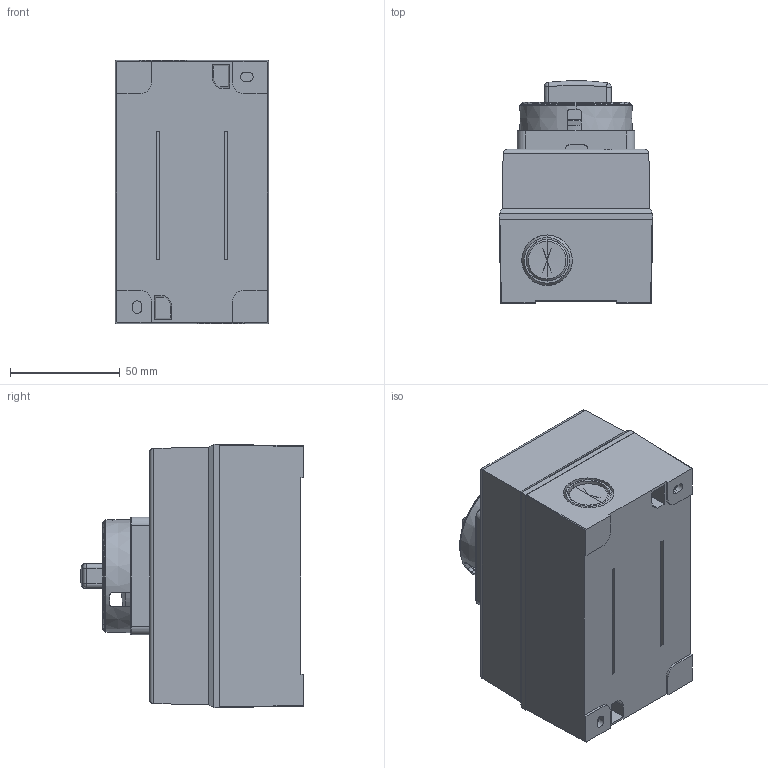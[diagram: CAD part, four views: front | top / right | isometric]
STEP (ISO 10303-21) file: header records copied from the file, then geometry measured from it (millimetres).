
FILE_DESCRIPTION((''),'2;1');
FILE_NAME('PRT0001','2022-05-24T15:17:40',('MKukiela'),('Rockwell Automation'),'CREO PARAMETRIC BY PTC INC, 2020281','CREO PARAMETRIC BY PTC INC, 2020281','');
FILE_SCHEMA(('CONFIG_CONTROL_DESIGN'));
Length unit declared in the file: millimetre
Products named in the file (1): PRT0001
Bounding box: 70 x 101.3 x 120 mm (x, y, z)
Surface area: 126598.9 mm2 (no closed solid volume)
Topology: 0 solids, 7 shells, 816 faces, 2284 edges, 1520 vertices
Faces by surface type: plane 423, cylinder 243, cone 82, torus 36, bspline 17, sphere 15
Entity records: 29541 total; most frequent: CARTESIAN_POINT 8304, ORIENTED_EDGE 4552, DIRECTION 4352, EDGE_CURVE 2276, AXIS2_PLACEMENT_3D 1562, VERTEX_POINT 1520, VECTOR 1228, LINE 1228
